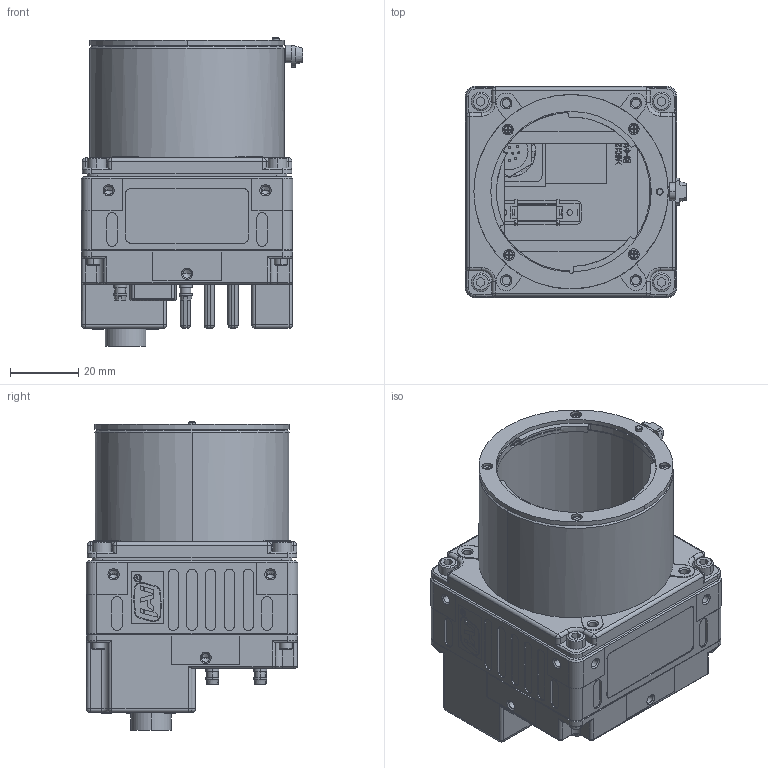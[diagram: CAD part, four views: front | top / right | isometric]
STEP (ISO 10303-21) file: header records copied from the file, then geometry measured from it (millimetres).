
FILE_DESCRIPTION(('OneSpaceDesigner STEP Export'),'2;1');
FILE_NAME('F_MOUNT_PMCL_2014_01_15.stp','2014-01-15T 9:50:26',(''),(''),'OneSpace Designer STEP processor for AP214 (Solid Model)','OneSpace Modeling 15.00A 14-Mar-2007 (C) CoCreate Software GmbH','');
FILE_SCHEMA(('AUTOMOTIVE_DESIGN { 1 0 10303 214 1 1 1 1 }'));
Length unit declared in the file: millimetre
Products named in the file (2): F_MOUNT_PMCL
Assembly tree (1 placements, depth 2):
  F_MOUNT_PMCL
    F_MOUNT_PMCL
Bounding box: 64.9 x 62 x 90.6 mm (x, y, z)
Volume: 73833.6 mm3; surface area: 61302.2 mm2
Topology: 1 solids, 33 shells, 4818 faces, 13443 edges, 8674 vertices
Faces by surface type: plane 3123, cylinder 1134, cone 301, torus 171, sphere 67, bspline 22
Entity records: 151697 total; most frequent: CARTESIAN_POINT 32711, ORIENTED_EDGE 26684, DIRECTION 21857, EDGE_CURVE 13338, VECTOR 9363, LINE 9363, VERTEX_POINT 8674, AXIS2_PLACEMENT_3D 6247
